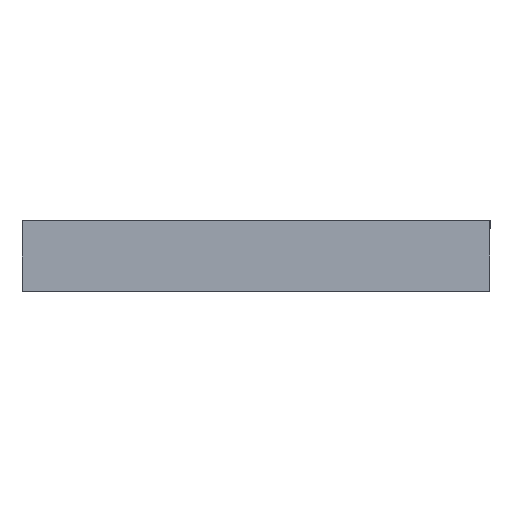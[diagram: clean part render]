
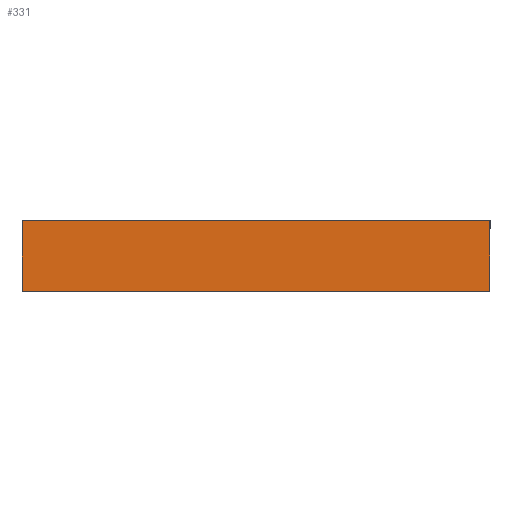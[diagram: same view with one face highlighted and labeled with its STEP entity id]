
A CAD part, left-side view. The second image highlights one B-rep face of the part: STEP entity #331.
In plain terms, the highlighted planar face has unit normal (-1, 0, 0).
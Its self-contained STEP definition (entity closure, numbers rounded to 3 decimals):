
#2 = EDGE_CURVE ( 'NONE', #521, #512, #122, .T. ) ;
#13 = EDGE_CURVE ( 'NONE', #573, #527, #218, .T. ) ;
#52 = AXIS2_PLACEMENT_3D ( 'NONE', #426, #419, #418 ) ;
#53 = EDGE_CURVE ( 'NONE', #573, #521, #159, .T. ) ;
#69 = EDGE_CURVE ( 'NONE', #527, #512, #135, .T. ) ;
#97 = FACE_OUTER_BOUND ( 'NONE', #240, .T. ) ;
#110 = ORIENTED_EDGE ( 'NONE', *, *, #13, .F. ) ;
#122 = LINE ( 'NONE', #585, #222 ) ;
#134 = VECTOR ( 'NONE', #478, 1000. ) ;
#135 = LINE ( 'NONE', #480, #134 ) ;
#158 = VECTOR ( 'NONE', #514, 1000. ) ;
#159 = LINE ( 'NONE', #515, #158 ) ;
#211 = VECTOR ( 'NONE', #422, 1000. ) ;
#218 = LINE ( 'NONE', #446, #211 ) ;
#222 = VECTOR ( 'NONE', #481, 1000. ) ;
#227 = ORIENTED_EDGE ( 'NONE', *, *, #69, .F. ) ;
#240 = EDGE_LOOP ( 'NONE', ( #301, #227, #110, #305 ) ) ;
#301 = ORIENTED_EDGE ( 'NONE', *, *, #2, .T. ) ;
#305 = ORIENTED_EDGE ( 'NONE', *, *, #53, .T. ) ;
#331 = ADVANCED_FACE ( 'NONE', ( #97 ), #430, .F. ) ;
#369 = CARTESIAN_POINT ( 'NONE',  ( -300., 429., 65. ) ) ;
#384 = CARTESIAN_POINT ( 'NONE',  ( -300., 0., 65. ) ) ;
#386 = CARTESIAN_POINT ( 'NONE',  ( -300., 429., 0. ) ) ;
#387 = CARTESIAN_POINT ( 'NONE',  ( -300., 0., 0. ) ) ;
#418 = DIRECTION ( 'NONE',  ( 0., 1., 0. ) ) ;
#419 = DIRECTION ( 'NONE',  ( 1., 0., 0. ) ) ;
#422 = DIRECTION ( 'NONE',  ( 0., -1., 0. ) ) ;
#426 = CARTESIAN_POINT ( 'NONE',  ( -300., 0., 65. ) ) ;
#430 = PLANE ( 'NONE',  #52 ) ;
#446 = CARTESIAN_POINT ( 'NONE',  ( -300., 0., 65. ) ) ;
#478 = DIRECTION ( 'NONE',  ( 0., 0., -1. ) ) ;
#480 = CARTESIAN_POINT ( 'NONE',  ( -300., 0., 65. ) ) ;
#481 = DIRECTION ( 'NONE',  ( 0., -1., 0. ) ) ;
#512 = VERTEX_POINT ( 'NONE', #387 ) ;
#514 = DIRECTION ( 'NONE',  ( 0., 0., -1. ) ) ;
#515 = CARTESIAN_POINT ( 'NONE',  ( -300., 429., 65. ) ) ;
#521 = VERTEX_POINT ( 'NONE', #386 ) ;
#527 = VERTEX_POINT ( 'NONE', #384 ) ;
#573 = VERTEX_POINT ( 'NONE', #369 ) ;
#585 = CARTESIAN_POINT ( 'NONE',  ( -300., 0., 0. ) ) ;
